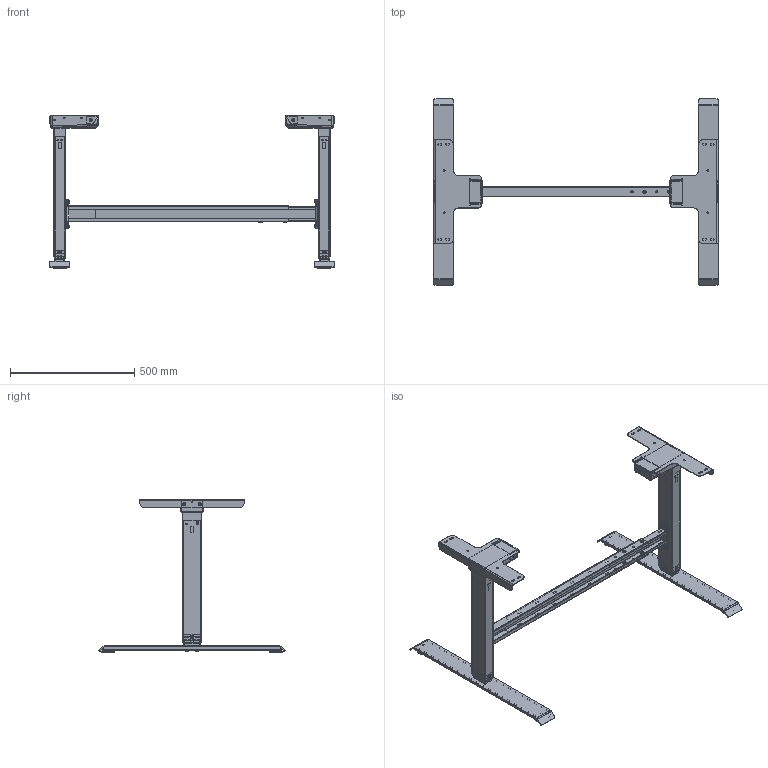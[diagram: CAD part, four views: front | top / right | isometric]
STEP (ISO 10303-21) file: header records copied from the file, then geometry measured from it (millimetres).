
FILE_DESCRIPTION(/* description */ ('Unknown'),/* implementation_level */ '2;1');
FILE_NAME(/* name */ 'Untergestell EBI 2655 S XX XX_00-Eingefahren',/* time_stamp */ '2026-09-11T13:09:13+02:00',/* author */ ('Unknown'),/* organization */ ('Unknown'),/* preprocessor_version */ 'ST-DEVELOPER v20',/* originating_system */ 'Solid Edge',/* authorisation */ 'Unknown');
FILE_SCHEMA (('AUTOMOTIVE_DESIGN {1 0 10303 214 3 1 1}'));
Products named in the file (21): Untergestell EBI 2655 S XX XX; 127.00826; 127.00828_ohne Regulierfuss; Regulierfuss; 804.00047; EBI Aussenprofil; EBI Mittelprofil; EBI Innenprofil; EBI S Aussenprofil; 127.00846; E1 Traverse aussen S; E1 Traverse innen S; Halbrundkopfschraube M6x16; Scheibe ﾘ6,4; Sechskantmutter M6; Halbrundkopfschraube M8x10; 127.00803; Senkschraube M6x12 S; Senkschraube M6x12; Halbrundkopfschraube M6x32 S; Halbrundkopfschraube M6x32
Assembly tree (52 placements, depth 3):
  Untergestell EBI 2655 S XX XX
    127.00826  x2
      127.00828_ohne Regulierfuss
      Regulierfuss
    804.00047  x2
      EBI Aussenprofil
      EBI Mittelprofil
      EBI Innenprofil
      EBI S Aussenprofil
    127.00846
      E1 Traverse aussen S
      E1 Traverse innen S
      Halbrundkopfschraube M6x16  x4
      Scheibe ﾘ6,4  x4
      Sechskantmutter M6  x4
      Halbrundkopfschraube M8x10  x4
    127.00803  x2
    Senkschraube M6x12 S  x8
    Senkschraube M6x12  x4
    Halbrundkopfschraube M6x32 S  x6
    Halbrundkopfschraube M6x32  x2
Bounding box: 1145.99 x 749.98 x 619.5 mm (x, y, z)
Volume: 4148893.6 mm3; surface area: 3782160 mm2
Topology: 60 solids, 60 shells, 4651 faces, 12523 edges, 8074 vertices
Faces by surface type: plane 2494, cylinder 1393, cone 316, torus 228, bspline 136, sphere 84
Full cylindrical faces by diameter (mm): 4.5 x8, 5 x32, 5.6 x32, 6 x30, 6.4 x4, 6.8 x4, 7 x16, 7.2 x24, 8 x4, 8.5 x4, 12 x12, 13.6 x4, 14 x4
Entity records: 74603 total; most frequent: CARTESIAN_POINT 16162, ORIENTED_EDGE 11774, DIRECTION 11219, EDGE_CURVE 5887, VERTEX_POINT 3854, LINE 3817, VECTOR 3817, AXIS2_PLACEMENT_3D 3701
